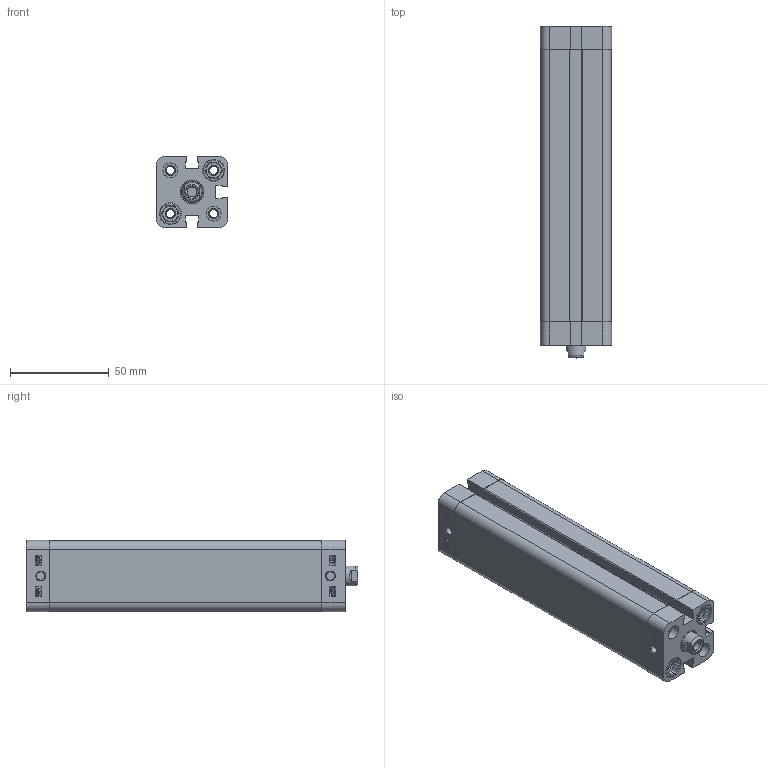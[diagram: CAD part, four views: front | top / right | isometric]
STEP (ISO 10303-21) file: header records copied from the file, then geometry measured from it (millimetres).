
FILE_DESCRIPTION(/* description */ ('Unknown'),/* implementation_level */ '2;1');
FILE_NAME(/* name */ 'ZIN 20_125',/* time_stamp */ '2025-01-24T13:20:03+01:00',/* author */ ('Unknown'),/* organization */ ('HAFNER Pneumatika Kft'),/* preprocessor_version */ 'ST-DEVELOPER v16.7',/* originating_system */ 'Solid Edge',/* authorisation */ 'Unknown');
FILE_SCHEMA (('AUTOMOTIVE_DESIGN {1 0 10303 214 3 1 1}'));
Length unit declared in the file: millimetre
Products named in the file (5): ZIN 20_125; Kit_1; Kit_2; Profilrohr; Kolbenstange
Assembly tree (4 placements, depth 2):
  ZIN 20_125
    Kit_1
    Kit_2
    Profilrohr
    Kolbenstange
Bounding box: 36.3 x 168.5 x 36.3 mm (x, y, z)
Volume: 132064.3 mm3; surface area: 67250.5 mm2
Topology: 4 solids, 8 shells, 573 faces, 1545 edges, 1024 vertices
Faces by surface type: plane 282, cylinder 149, bspline 86, cone 44, torus 12
Full cylindrical faces by diameter (mm): 4.134 x10, 4.917 x2, 7.5 x4, 7.55 x4, 8 x8, 9 x1, 10 x1, 10.48 x1, 10.9 x4, 11.1 x4, 11.4 x1, 12 x1, 13.84 x1, 14 x1, 20 x2
Entity records: 21354 total; most frequent: CARTESIAN_POINT 4171, ORIENTED_EDGE 2820, DIRECTION 2564, EDGE_CURVE 1410, VERTEX_POINT 979, AXIS2_PLACEMENT_3D 862, LINE 840, VECTOR 840
